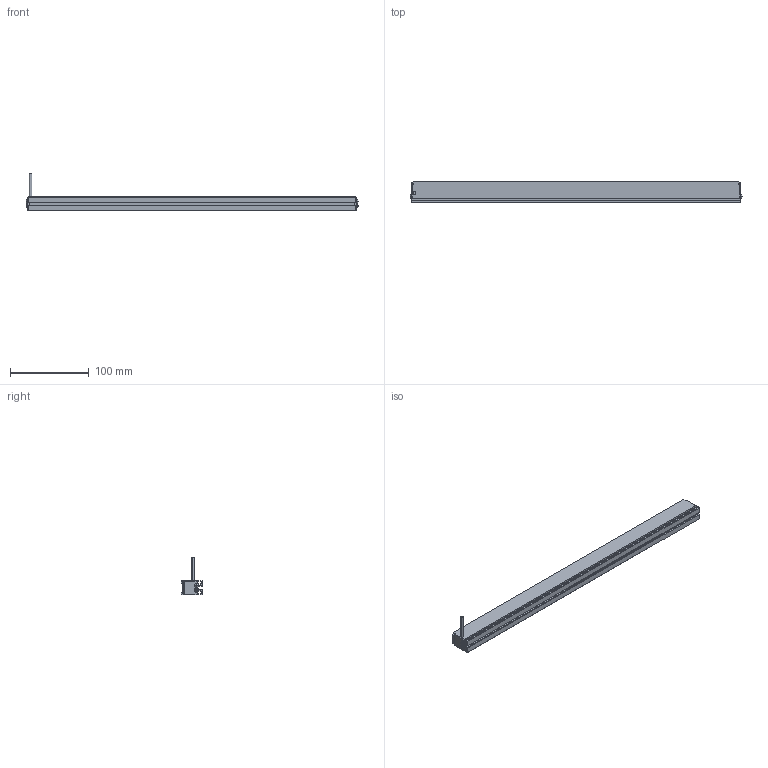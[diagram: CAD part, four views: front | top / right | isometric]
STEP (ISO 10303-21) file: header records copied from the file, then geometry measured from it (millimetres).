
FILE_DESCRIPTION((''),'2;1');
FILE_NAME('MV-LLDS-417-18_ASM','2020-12-30T',('Administrator'),(''),'PRO/ENGINEER BY PARAMETRIC TECHNOLOGY CORPORATION, 2010100','PRO/ENGINEER BY PARAMETRIC TECHNOLOGY CORPORATION, 2010100','');
FILE_SCHEMA(('CONFIG_CONTROL_DESIGN'));
Length unit declared in the file: millimetre
Products named in the file (3): BL_2_-_4_; M3-5_3; MV-LLDS-417-18_ASM
Assembly tree (5 placements, depth 2):
  MV-LLDS-417-18_ASM
    BL_2_-_4_
    M3-5_3  x4
Bounding box: 421.68 x 27 x 48 mm (x, y, z)
Volume: 165908.5 mm3; surface area: 64530.9 mm2
Topology: 5 solids, 13 shells, 283 faces, 736 edges, 472 vertices
Faces by surface type: plane 169, cylinder 66, cone 16, bspline 16, torus 8, sphere 8
Entity records: 6005 total; most frequent: CARTESIAN_POINT 1311, DIRECTION 952, ORIENTED_EDGE 942, EDGE_CURVE 481, VECTOR 336, LINE 336, VERTEX_POINT 313, AXIS2_PLACEMENT_3D 308
